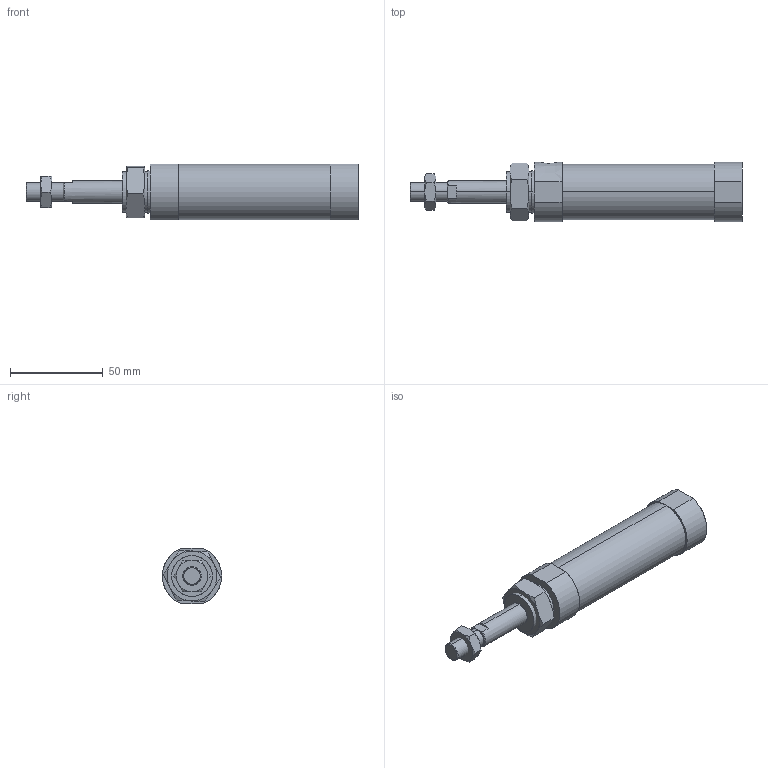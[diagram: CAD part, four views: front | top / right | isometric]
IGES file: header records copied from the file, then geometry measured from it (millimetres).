
Start section: SolidWorks IGES file using analytic representation for surfaces
Global section: file name: C:\Users\Toshiba\Desktop\JGND0-25-25-N.IGS; native system: SolidWorks 2014; preprocessor: SolidWorks 2014; author: Toshiba; date: 160804.100921; units: millimetre
Bounding box: 179 x 32 x 30 mm (x, y, z)
Surface area: 18964.9 mm2 (no closed solid volume)
Topology: 0 solids, 0 shells, 85 faces, 1510 edges, 1508 vertices
Faces by surface type: bspline 59, revolution 26
